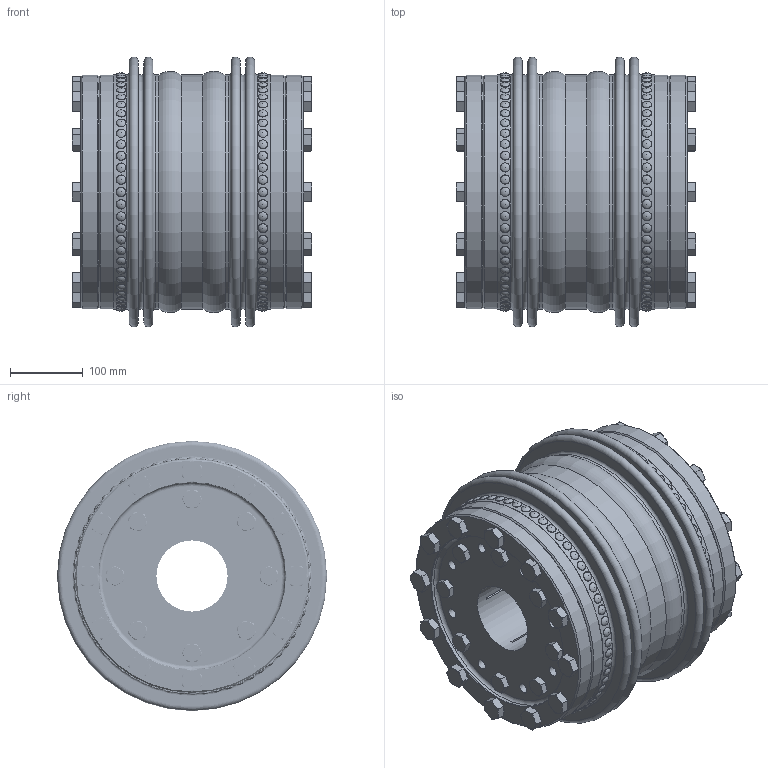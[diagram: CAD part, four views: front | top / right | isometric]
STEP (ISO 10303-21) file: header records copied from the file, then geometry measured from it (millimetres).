
FILE_DESCRIPTION(/* description */ ('Unknown'),/* implementation_level */ '2;1');
FILE_NAME(/* name */ 'KXL 18 B-B',/* time_stamp */ '2020-07-06T08:28:31+02:00',/* author */ ('Unknown'),/* organization */ ('Unknown'),/* preprocessor_version */ 'ST-DEVELOPER v16.7',/* originating_system */ 'DEX',/* authorisation */ $);
FILE_SCHEMA (('AUTOMOTIVE_DESIGN {1 0 10303 214 3 1 1}'));
Length unit declared in the file: millimetre
Products named in the file (1): KXL 18 B-B2
Bounding box: 329.39 x 372 x 372 mm (x, y, z)
Volume: 10805409.3 mm3; surface area: 1738284.2 mm2
Topology: 1 solids, 41 shells, 1804 faces, 3984 edges, 2580 vertices
Faces by surface type: plane 828, torus 538, cylinder 306, cone 132
Full cylindrical faces by diameter (mm): 6.4 x120, 13.835 x16, 14 x16, 16 x16, 17 x16, 18 x24, 19 x24, 22.5 x16, 27 x24, 98 x2, 245 x2, 247 x2, 250 x2, 258 x4, 306.5 x2, 317.7 x3, 322 x4, 322.5 x3, 322.8 x2
Entity records: 44978 total; most frequent: CARTESIAN_POINT 11081, DIRECTION 6926, ORIENTED_EDGE 5492, FACE_BOUND 3120, AXIS2_PLACEMENT_3D 3111, EDGE_LOOP 2984, EDGE_CURVE 2746, VERTEX_POINT 2210
